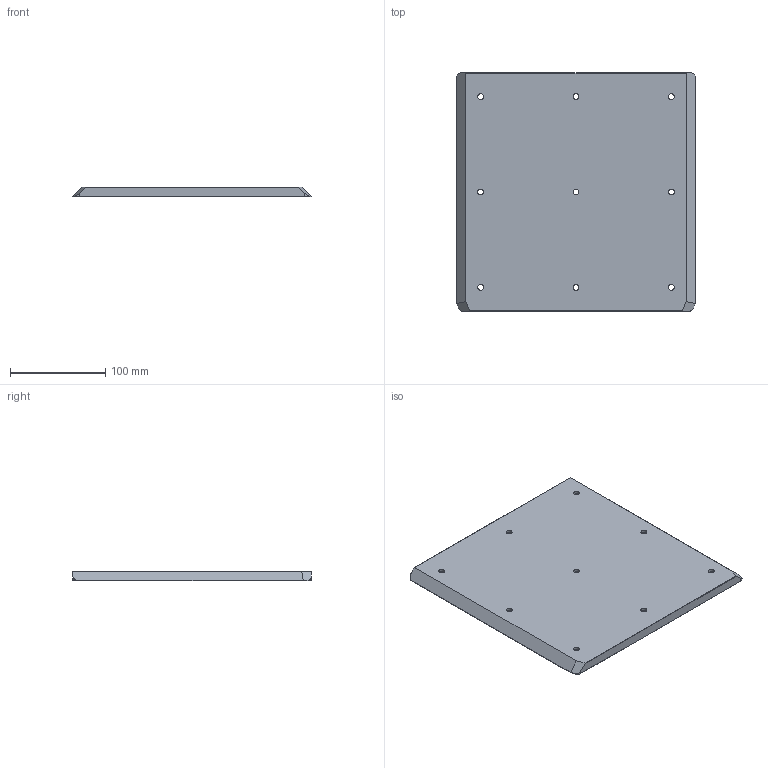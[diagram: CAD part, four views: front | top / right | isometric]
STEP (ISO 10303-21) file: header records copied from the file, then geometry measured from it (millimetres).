
FILE_DESCRIPTION(('STEP AP214'),'1');
FILE_NAME('CA.GPM3S.stp','2017-08-03T08:43:20',(' '),(' '),'Spatial InterOp 3D',' ',' ');
FILE_SCHEMA(('automotive_design'));
Length unit declared in the file: millimetre
Products named in the file (1): GPM3S
Bounding box: 250 x 250 x 10 mm (x, y, z)
Volume: 595262.7 mm3; surface area: 133862.7 mm2
Topology: 1 solids, 1 shells, 56 faces, 142 edges, 97 vertices
Faces by surface type: plane 25, cylinder 22, cone 9
Full cylindrical faces by diameter (mm): 6.2 x9, 11 x9
Entity records: 1922 total; most frequent: DIRECTION 268, CARTESIAN_POINT 233, ORIENTED_EDGE 194, AXIS2_PLACEMENT_3D 114, EDGE_LOOP 110, EDGE_CURVE 97, VERTEX_POINT 79, FACE_OUTER_BOUND 74
